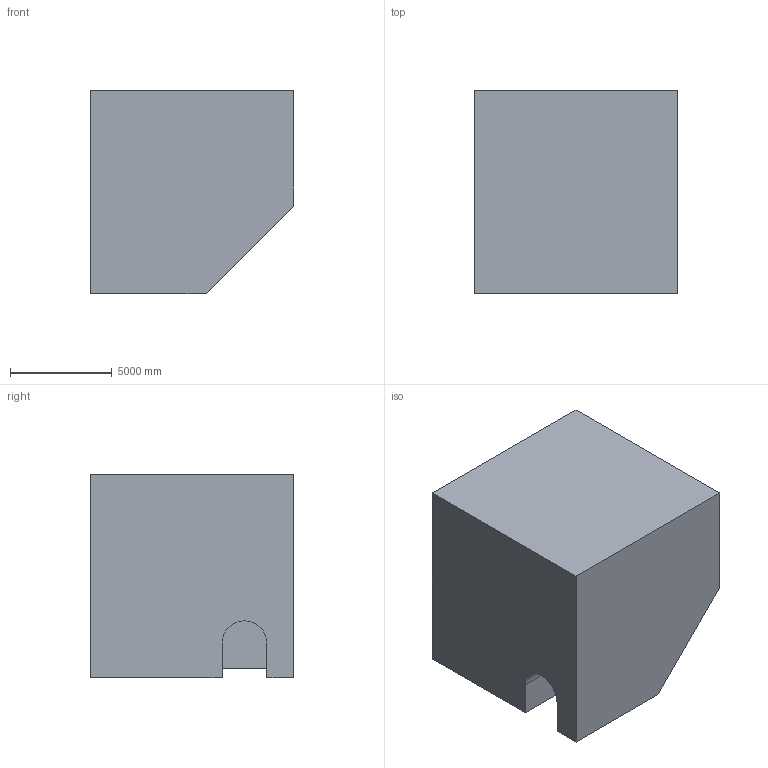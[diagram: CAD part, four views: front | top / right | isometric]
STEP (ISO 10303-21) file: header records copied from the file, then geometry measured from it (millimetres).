
FILE_DESCRIPTION (( 'STEP AP203' ), '1' );
FILE_NAME ('1287.STEP', '2022-08-18T13:34:29', ( 'user' ), ( '' ), 'SwSTEP 2.0', 'SolidWorks 2021', '' );
FILE_SCHEMA (( 'CONFIG_CONTROL_DESIGN' ));
Length unit declared in the file: centimetre
Products named in the file (1): 1287
Bounding box: 10000 x 10000 x 10000 mm (x, y, z)
Volume: 865671763528.6 mm3; surface area: 587360762.7 mm2
Topology: 1 solids, 1 shells, 17 faces, 45 edges, 30 vertices
Faces by surface type: plane 13, cylinder 4
Entity records: 602 total; most frequent: CARTESIAN_POINT 99, ORIENTED_EDGE 90, DIRECTION 85, EDGE_CURVE 45, VECTOR 37, LINE 37, VERTEX_POINT 30, AXIS2_PLACEMENT_3D 24
